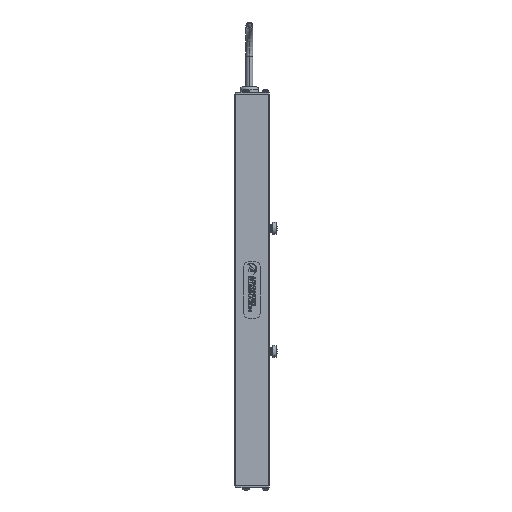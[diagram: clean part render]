
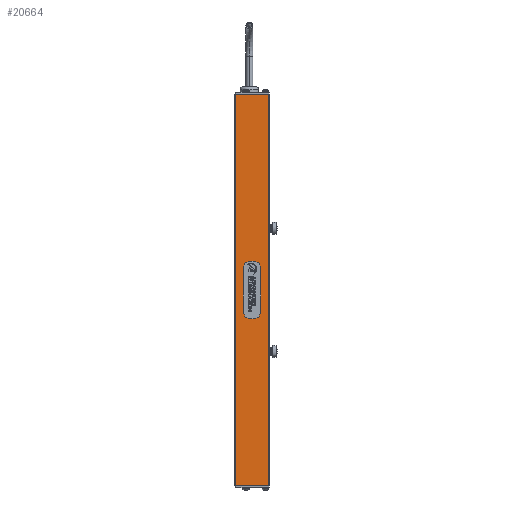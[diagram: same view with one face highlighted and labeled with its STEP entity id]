
A CAD part, left-side view. The second image highlights one B-rep face of the part: STEP entity #20664.
In plain terms, the highlighted planar face has unit normal (-1, 0, 0).
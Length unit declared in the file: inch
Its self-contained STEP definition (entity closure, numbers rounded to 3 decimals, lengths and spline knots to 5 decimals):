
#1654 = EDGE_CURVE ( 'NONE', #27697, #25100, #20846, .T. ) ;
#4821 = LINE ( 'NONE', #12172, #32465 ) ;
#5225 = PLANE ( 'NONE',  #17290 ) ;
#7019 = VERTEX_POINT ( 'NONE', #23644 ) ;
#7169 = FACE_OUTER_BOUND ( 'NONE', #27951, .T. ) ;
#7388 = VECTOR ( 'NONE', #19743, 39.37008 ) ;
#7755 = DIRECTION ( 'NONE',  ( 1., 0., 0. ) ) ;
#8442 = ORIENTED_EDGE ( 'NONE', *, *, #20445, .T. ) ;
#9354 = CARTESIAN_POINT ( 'NONE',  ( -0.665, 0., -6.36 ) ) ;
#10988 = CARTESIAN_POINT ( 'NONE',  ( -0.665, 1.105, 6.36 ) ) ;
#12172 = CARTESIAN_POINT ( 'NONE',  ( -0.665, 1.105, 6.36 ) ) ;
#13097 = CARTESIAN_POINT ( 'NONE',  ( -0.665, 0., 6.36 ) ) ;
#14111 = DIRECTION ( 'NONE',  ( 0., 0., 1. ) ) ;
#16729 = LINE ( 'NONE', #13097, #32523 ) ;
#17290 = AXIS2_PLACEMENT_3D ( 'NONE', #22937, #7755, #25427 ) ;
#17642 = ORIENTED_EDGE ( 'NONE', *, *, #24534, .F. ) ;
#19743 = DIRECTION ( 'NONE',  ( 0., -1., 0. ) ) ;
#20255 = VERTEX_POINT ( 'NONE', #10988 ) ;
#20445 = EDGE_CURVE ( 'NONE', #20255, #27697, #4821, .T. ) ;
#20527 = DIRECTION ( 'NONE',  ( 0., -1., 0. ) ) ;
#20664 = ADVANCED_FACE ( 'NONE', ( #7169 ), #5225, .F. ) ;
#20846 = LINE ( 'NONE', #9354, #7388 ) ;
#21945 = EDGE_CURVE ( 'NONE', #25100, #7019, #26377, .T. ) ;
#22545 = CARTESIAN_POINT ( 'NONE',  ( -0.665, 1.105, -6.36 ) ) ;
#22937 = CARTESIAN_POINT ( 'NONE',  ( -0.665, 0., 6.36 ) ) ;
#23441 = ORIENTED_EDGE ( 'NONE', *, *, #21945, .T. ) ;
#23644 = CARTESIAN_POINT ( 'NONE',  ( -0.665, 0.015, 6.36 ) ) ;
#24534 = EDGE_CURVE ( 'NONE', #20255, #7019, #16729, .T. ) ;
#25100 = VERTEX_POINT ( 'NONE', #25900 ) ;
#25427 = DIRECTION ( 'NONE',  ( 0., 0., -1. ) ) ;
#25900 = CARTESIAN_POINT ( 'NONE',  ( -0.665, 0.015, -6.36 ) ) ;
#26377 = LINE ( 'NONE', #26699, #30683 ) ;
#26699 = CARTESIAN_POINT ( 'NONE',  ( -0.665, 0.015, 6.36 ) ) ;
#27697 = VERTEX_POINT ( 'NONE', #22545 ) ;
#27951 = EDGE_LOOP ( 'NONE', ( #17642, #8442, #30158, #23441 ) ) ;
#29698 = DIRECTION ( 'NONE',  ( 0., 0., -1. ) ) ;
#30158 = ORIENTED_EDGE ( 'NONE', *, *, #1654, .T. ) ;
#30683 = VECTOR ( 'NONE', #14111, 39.37008 ) ;
#32465 = VECTOR ( 'NONE', #29698, 39.37008 ) ;
#32523 = VECTOR ( 'NONE', #20527, 39.37008 ) ;
